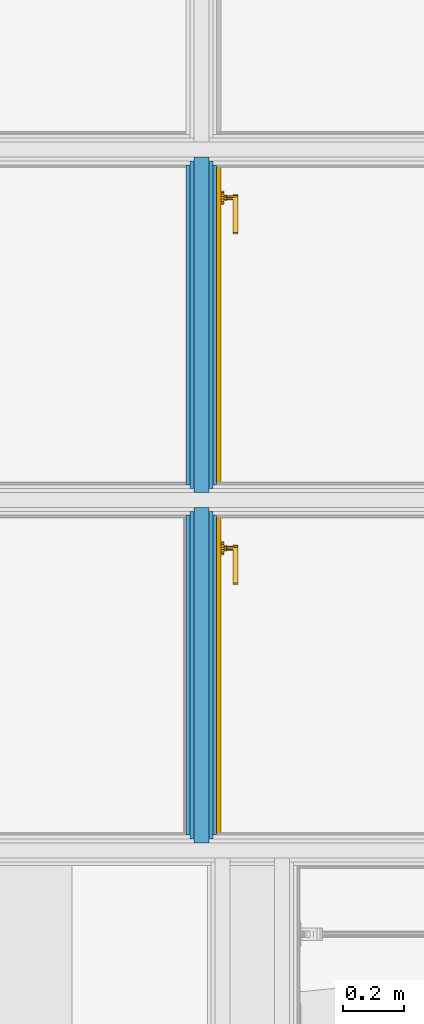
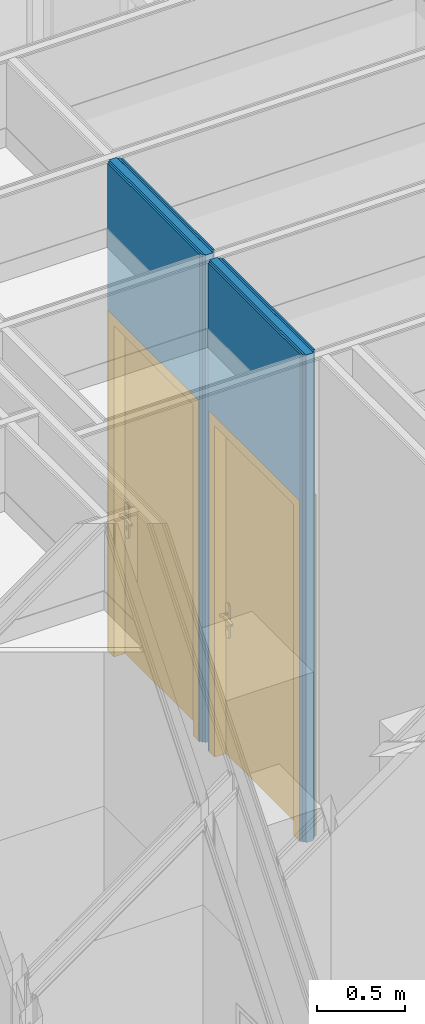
# One storey, part 15 of 788: 10 building element parts, 2 doors, 2 openings, 2 elements without a shape of their own.
"""IFC2X3 building model written with IfcOpenShell, lengths in millimetres."""

from ifc_helpers import new_model, entity, si_unit, converted_unit, derived_unit, money_unit, direction, frame, origin_with_axes, place, context, subcontext, project, spatial, faceted_brep, source, transform, mapped, material, type_object, type_shapes, element, fill, aggregate, save


model = new_model("IFC2X3")

# Units and contexts
model_context = context("Model", 3, precision=0.01, world=origin_with_axes(), true_north=direction((0.0, 1.0)))
plan_context = context("Plan", 3, precision=0.01, world=origin_with_axes(), true_north=direction((0.0, 1.0)))
body_context = subcontext(model_context, "Body", "Model", "MODEL_VIEW")
ifc_project = project(units=[si_unit("LENGTHUNIT", "METRE", prefix="MILLI"), si_unit("AREAUNIT", "SQUARE_METRE"), si_unit("VOLUMEUNIT", "CUBIC_METRE"), converted_unit("PLANEANGLEUNIT", "DEGREE", entity("IfcPlaneAngleMeasure", 0.0174532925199), si_unit("PLANEANGLEUNIT", "RADIAN"), dimensions=[0, 0, 0, 0, 0, 0, 0]), money_unit("EUR"), converted_unit("TIMEUNIT", "Year", entity("IfcTimeMeasure", 31556926.0), si_unit("TIMEUNIT", "SECOND"), dimensions=[0, 0, 1, 0, 0, 0, 0]), si_unit("MASSUNIT", "GRAM", prefix="KILO"), si_unit("THERMODYNAMICTEMPERATUREUNIT", "DEGREE_CELSIUS"), si_unit("LUMINOUSINTENSITYUNIT", "LUMEN"), si_unit("ENERGYUNIT", "JOULE", prefix="MEGA"), derived_unit("THERMALCONDUCTANCEUNIT", [(si_unit("POWERUNIT", "WATT"), 1), (si_unit("LENGTHUNIT", "METRE"), -1), (si_unit("THERMODYNAMICTEMPERATUREUNIT", "KELVIN"), -1)]), derived_unit("SPECIFICHEATCAPACITYUNIT", [(si_unit("ENERGYUNIT", "JOULE"), 1), (si_unit("MASSUNIT", "GRAM", prefix="KILO"), -1), (si_unit("THERMODYNAMICTEMPERATUREUNIT", "KELVIN"), -1)]), derived_unit("MASSDENSITYUNIT", [(si_unit("MASSUNIT", "GRAM", prefix="KILO"), 1), (si_unit("VOLUMEUNIT", "CUBIC_METRE"), -1)])], contexts=[model_context, plan_context])

# Site, building, storey
site_placement = place(None, origin_with_axes())
site = spatial("IfcSite", under=ifc_project, at=site_placement, Name="Site", CompositionType="ELEMENT")
building_placement = place(site_placement, origin_with_axes())
building = spatial("IfcBuilding", under=site, at=building_placement, Name="Naam gebouw", CompositionType="ELEMENT")
storey_placement = place(building_placement, origin_with_axes())
storey = spatial("IfcBuildingStorey", under=building, at=storey_placement, Name="Begane grond", CompositionType="ELEMENT", Elevation=0.0)

# Door
door_style = type_object("IfcDoorStyle", Name="D1 25", ConstructionType="NOTDEFINED", OperationType="SINGLE_SWING_RIGHT", ParameterTakesPrecedence=False, Sizeable=False)
shared_shape = source(origin_with_axes(), body_context, "Body", "Brep", [
    faceted_brep([(-450.0, -40.0, 0.0), (-450.0, -40.0, 2310.0), (-450.0, -114.0, 2310.0), (-450.0, -114.0, 0.0), (-467.0, -40.0, 2310.0), (-467.0, -40.0, 0.0), (-467.0, 0.0, 2310.0), (-517.0, 0.0, 2310.0), (-517.0, -114.0, 2310.0), (-517.0, -114.0, 0.0), (-517.0, 0.0, 0.0), (-467.0, 0.0, 0.0)], [[[0, 1, 2, 3]], [[4, 1, 0, 5]], [[4, 6, 7, 8, 2, 1]], [[3, 2, 8, 9]], [[5, 0, 3, 9, 10, 11]], [[6, 4, 5, 11]], [[6, 11, 10, 7]], [[10, 9, 8, 7]]]),
    faceted_brep([(467.0, -40.0, 2310.0), (450.0, -40.0, 2310.0), (450.0, -114.0, 2310.0), (517.0, -114.0, 2310.0), (517.0, 0.0, 2310.0), (467.0, 0.0, 2310.0), (467.0, -40.0, 0.0), (450.0, -40.0, 0.0), (450.0, -114.0, 0.0), (517.0, -114.0, 0.0), (517.0, 0.0, 0.0), (467.0, 0.0, 0.0)], [[[0, 1, 2, 3, 4, 5]], [[1, 0, 6, 7]], [[1, 7, 8, 2]], [[3, 2, 8, 9]], [[4, 3, 9, 10]], [[11, 5, 4, 10]], [[0, 5, 11, 6]], [[6, 11, 10, 9, 8, 7]]]),
    faceted_brep([(-467.0, 0.0, 2327.0), (-467.0, 0.0, 2310.0), (-517.0, 0.0, 2310.0), (-517.0, 0.0, 2377.0), (517.0, 0.0, 2377.0), (517.0, 0.0, 2310.0), (467.0, 0.0, 2310.0), (467.0, 0.0, 2327.0), (-467.0, -40.0, 2327.0), (-467.0, -40.0, 2310.0), (-450.0, -40.0, 2310.0), (-450.0, -114.0, 2310.0), (-517.0, -114.0, 2310.0), (-517.0, -114.0, 2377.0), (517.0, -114.0, 2377.0), (517.0, -114.0, 2310.0), (467.0, -40.0, 2310.0), (450.0, -114.0, 2310.0), (450.0, -40.0, 2310.0), (467.0, -40.0, 2327.0)], [[[0, 1, 2, 3, 4, 5, 6, 7]], [[1, 0, 8, 9]], [[9, 10, 11, 12, 2, 1]], [[2, 12, 13, 3]], [[3, 13, 14, 4]], [[4, 14, 15, 5]], [[16, 6, 5, 15, 17, 18]], [[7, 6, 16, 19]], [[0, 7, 19, 8]], [[16, 18, 10, 9, 8, 19]], [[10, 18, 17, 11]], [[17, 15, 14, 13, 12, 11]]]),
    faceted_brep([(-421.702282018, -80.0, 1006.47213595), (-417.0, -80.0, 1008.0), (-417.0, -60.0, 1008.0), (-421.702282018, -60.0, 1006.47213595), (-424.60845213, -80.0, 1002.47213595), (-424.60845213, -80.0, 997.527864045), (-421.702282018, -80.0, 993.527864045), (-417.0, -80.0, 992.0), (-412.297717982, -80.0, 993.527864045), (-409.39154787, -80.0, 997.527864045), (-409.39154787, -80.0, 1002.47213595), (-412.297717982, -80.0, 1006.47213595), (-412.297717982, -60.0, 1006.47213595), (-417.0, -58.0, 1010.0), (-422.877852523, -58.0, 1008.09016994), (-424.60845213, -60.0, 1002.47213595), (-424.60845213, -60.0, 997.527864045), (-421.702282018, -60.0, 993.527864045), (-417.0, -60.0, 992.0), (-412.297717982, -60.0, 993.527864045), (-409.39154787, -60.0, 997.527864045), (-409.39154787, -60.0, 1002.47213595), (-411.122147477, -58.0, 1008.09016994), (-417.0, -50.0, 1010.0), (-422.877852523, -50.0, 1008.09016994), (-426.510565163, -58.0, 1003.09016994), (-426.510565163, -58.0, 996.909830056), (-422.877852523, -58.0, 991.909830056), (-417.0, -58.0, 990.0), (-411.122147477, -58.0, 991.909830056), (-407.489434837, -58.0, 996.909830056), (-407.489434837, -58.0, 1003.09016994), (-411.122147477, -50.0, 1008.09016994), (-407.489434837, -50.0, 1003.09016994), (-407.489434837, -50.0, 996.909830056), (-411.122147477, -50.0, 991.909830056), (-417.0, -50.0, 990.0), (-422.877852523, -50.0, 991.909830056), (-426.510565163, -50.0, 996.909830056), (-426.510565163, -50.0, 1003.09016994)], [[[0, 1, 2, 3]], [[1, 0, 4, 5, 6, 7, 8, 9, 10, 11]], [[1, 11, 12, 2]], [[3, 2, 13, 14]], [[4, 0, 3, 15]], [[5, 4, 15, 16]], [[6, 5, 16, 17]], [[7, 6, 17, 18]], [[8, 7, 18, 19]], [[9, 8, 19, 20]], [[10, 9, 20, 21]], [[11, 10, 21, 12]], [[2, 12, 22, 13]], [[14, 13, 23, 24]], [[15, 3, 14, 25]], [[16, 15, 25, 26]], [[17, 16, 26, 27]], [[18, 17, 27, 28]], [[19, 18, 28, 29]], [[20, 19, 29, 30]], [[21, 20, 30, 31]], [[12, 21, 31, 22]], [[13, 22, 32, 23]], [[23, 32, 33, 34, 35, 36, 37, 38, 39, 24]], [[25, 14, 24, 39]], [[26, 25, 39, 38]], [[27, 26, 38, 37]], [[28, 27, 37, 36]], [[29, 28, 36, 35]], [[30, 29, 35, 34]], [[31, 30, 34, 33]], [[22, 31, 33, 32]]]),
    faceted_brep([(-404.811616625, -50.0, 1067.59695641), (-412.556444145, -50.0, 1071.95567195), (-421.443555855, -50.0, 1071.95567195), (-429.188383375, -50.0, 1067.59695641), (-433.8, -50.0, 1060.0), (-439.5, -50.0, 1060.0), (-439.5, -50.0, 840.0), (-433.8, -50.0, 840.0), (-429.188383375, -50.0, 832.403043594), (-421.443555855, -50.0, 828.044328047), (-412.556444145, -50.0, 828.044328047), (-404.811616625, -50.0, 832.403043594), (-400.2, -50.0, 840.0), (-394.5, -50.0, 840.0), (-394.5, -50.0, 1060.0), (-400.2, -50.0, 1060.0), (-417.0, -50.0, 917.425445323), (-411.624817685, -50.0, 915.143815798), (-409.532169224, -50.0, 909.692280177), (-412.0, -50.0, 904.4), (-412.0, -50.0, 887.5), (-413.464466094, -50.0, 883.964466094), (-417.0, -50.0, 882.5), (-420.535533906, -50.0, 883.964466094), (-422.0, -50.0, 887.5), (-422.0, -50.0, 904.4), (-424.467830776, -50.0, 909.692280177), (-422.375182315, -50.0, 915.143815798), (-404.811616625, -40.0, 1067.59695641), (-412.556444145, -40.0, 1071.95567195), (-421.443555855, -40.0, 1071.95567195), (-429.188383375, -40.0, 1067.59695641), (-433.8, -40.0, 1060.0), (-439.5, -40.0, 1060.0), (-439.5, -40.0, 840.0), (-433.8, -40.0, 840.0), (-429.188383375, -40.0, 832.403043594), (-421.443555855, -40.0, 828.044328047), (-412.556444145, -40.0, 828.044328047), (-404.811616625, -40.0, 832.403043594), (-400.2, -40.0, 840.0), (-394.5, -40.0, 840.0), (-394.5, -40.0, 1060.0), (-400.2, -40.0, 1060.0), (-417.0, -40.0, 917.425445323), (-411.624817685, -40.0, 915.143815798), (-409.532169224, -40.0, 909.692280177), (-412.0, -40.0, 904.4), (-412.0, -40.0, 887.5), (-413.464466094, -40.0, 883.964466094), (-417.0, -40.0, 882.5), (-420.535533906, -40.0, 883.964466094), (-422.0, -40.0, 887.5), (-422.0, -40.0, 904.4), (-424.467830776, -40.0, 909.692280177), (-422.375182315, -40.0, 915.143815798)], [[[0, 1, 2, 3, 4, 5, 6, 7, 8, 9, 10, 11, 12, 13, 14, 15], [16, 17, 18, 19, 20, 21, 22, 23, 24, 25, 26, 27]], [[1, 0, 28, 29]], [[2, 1, 29, 30]], [[3, 2, 30, 31]], [[4, 3, 31, 32]], [[5, 4, 32, 33]], [[6, 5, 33, 34]], [[7, 6, 34, 35]], [[8, 7, 35, 36]], [[9, 8, 36, 37]], [[10, 9, 37, 38]], [[11, 10, 38, 39]], [[12, 11, 39, 40]], [[13, 12, 40, 41]], [[14, 13, 41, 42]], [[15, 14, 42, 43]], [[0, 15, 43, 28]], [[17, 16, 44, 45]], [[18, 17, 45, 46]], [[19, 18, 46, 47]], [[19, 47, 48, 20]], [[20, 48, 49, 21]], [[21, 49, 50, 22]], [[22, 50, 51, 23]], [[23, 51, 52, 24]], [[53, 25, 24, 52]], [[26, 25, 53, 54]], [[27, 26, 54, 55]], [[16, 27, 55, 44]], [[40, 39, 38, 37, 36, 35, 34, 33, 32, 31, 30, 29, 28, 43, 42, 41], [54, 53, 52, 51, 50, 49, 48, 47, 46, 45, 44, 55]]]),
    faceted_brep([(-302.747, -80.0, 1007.158), (-302.747, -95.0, 1007.158), (-302.745508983, -95.0, 1007.19388416), (-302.745508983, -80.0, 1007.19388416), (-329.774630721, -80.0, 1014.32652034), (-329.774630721, -95.0, 1014.32652034), (-357.602743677, -95.0, 1017.06086405), (-385.508740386, -95.0, 1015.29002982), (-412.768, -95.0, 1009.06), (-419.170575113, -95.0, 1009.76125134), (-424.672633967, -95.0, 1006.41280843), (-426.991512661, -95.0, 1000.40385485), (-425.165167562, -95.0, 994.227352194), (-419.951302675, -95.0, 990.445773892), (-413.513017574, -95.0, 990.628000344), (-408.521392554, -95.0, 994.698430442), (-408.542, -95.0, 994.666), (-383.253286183, -95.0, 1000.19878945), (-357.410818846, -95.0, 1001.71460194), (-331.648684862, -95.0, 999.176244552), (-306.599, -95.0, 992.646), (-301.055815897, -95.0, 993.568490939), (-297.69427449, -95.0, 998.071591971), (-298.385844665, -95.0, 1003.64829442), (-298.385844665, -80.0, 1003.64829442), (-297.69427449, -80.0, 998.071591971), (-301.055815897, -80.0, 993.568490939), (-306.599, -80.0, 992.646), (-331.648684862, -80.0, 999.176244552), (-357.410818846, -80.0, 1001.71460194), (-383.253286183, -80.0, 1000.19878945), (-408.542, -80.0, 994.666), (-408.521392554, -80.0, 994.698430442), (-413.513017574, -80.0, 990.628000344), (-419.951302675, -80.0, 990.445773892), (-425.165167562, -80.0, 994.227352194), (-426.991512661, -80.0, 1000.40385485), (-424.672633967, -80.0, 1006.41280843), (-419.170575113, -80.0, 1009.76125134), (-412.768, -80.0, 1009.06), (-385.508740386, -80.0, 1015.29002982), (-357.602743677, -80.0, 1017.06086405)], [[[0, 1, 2, 3]], [[4, 5, 1, 0]], [[1, 5, 6, 7, 8, 9, 10, 11, 12, 13, 14, 15, 16, 17, 18, 19, 20, 21, 22, 23, 2]], [[3, 2, 23, 24]], [[0, 3, 24, 25, 26, 27, 28, 29, 30, 31, 32, 33, 34, 35, 36, 37, 38, 39, 40, 41, 4]], [[41, 6, 5, 4]], [[40, 7, 6, 41]], [[39, 8, 7, 40]], [[38, 9, 8, 39]], [[37, 10, 9, 38]], [[36, 11, 10, 37]], [[35, 12, 11, 36]], [[34, 13, 12, 35]], [[33, 14, 13, 34]], [[32, 15, 14, 33]], [[31, 16, 15, 32]], [[30, 17, 16, 31]], [[29, 18, 17, 30]], [[28, 19, 18, 29]], [[27, 20, 19, 28]], [[26, 21, 20, 27]], [[25, 22, 21, 26]], [[24, 23, 22, 25]]]),
    faceted_brep([(-421.702282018, 40.0, 1006.47213595), (-421.702282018, 20.0, 1006.47213595), (-417.0, 20.0, 1008.0), (-417.0, 40.0, 1008.0), (-424.60845213, 40.0, 1002.47213595), (-424.60845213, 20.0, 1002.47213595), (-422.877852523, 18.0, 1008.09016994), (-417.0, 18.0, 1010.0), (-412.297717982, 20.0, 1006.47213595), (-412.297717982, 40.0, 1006.47213595), (-409.39154787, 40.0, 1002.47213595), (-409.39154787, 40.0, 997.527864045), (-412.297717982, 40.0, 993.527864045), (-417.0, 40.0, 992.0), (-421.702282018, 40.0, 993.527864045), (-424.60845213, 40.0, 997.527864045), (-424.60845213, 20.0, 997.527864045), (-426.510565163, 18.0, 1003.09016994), (-422.877852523, 10.0, 1008.09016994), (-417.0, 10.0, 1010.0), (-411.122147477, 18.0, 1008.09016994), (-409.39154787, 20.0, 1002.47213595), (-409.39154787, 20.0, 997.527864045), (-412.297717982, 20.0, 993.527864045), (-417.0, 20.0, 992.0), (-421.702282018, 20.0, 993.527864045), (-426.510565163, 18.0, 996.909830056), (-426.510565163, 10.0, 1003.09016994), (-426.510565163, 10.0, 996.909830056), (-422.877852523, 10.0, 991.909830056), (-417.0, 10.0, 990.0), (-411.122147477, 10.0, 991.909830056), (-407.489434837, 10.0, 996.909830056), (-407.489434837, 10.0, 1003.09016994), (-411.122147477, 10.0, 1008.09016994), (-407.489434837, 18.0, 1003.09016994), (-407.489434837, 18.0, 996.909830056), (-411.122147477, 18.0, 991.909830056), (-417.0, 18.0, 990.0), (-422.877852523, 18.0, 991.909830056)], [[[0, 1, 2, 3]], [[4, 5, 1, 0]], [[1, 6, 7, 2]], [[3, 2, 8, 9]], [[3, 9, 10, 11, 12, 13, 14, 15, 4, 0]], [[15, 16, 5, 4]], [[5, 17, 6, 1]], [[6, 18, 19, 7]], [[2, 7, 20, 8]], [[9, 8, 21, 10]], [[10, 21, 22, 11]], [[11, 22, 23, 12]], [[12, 23, 24, 13]], [[13, 24, 25, 14]], [[14, 25, 16, 15]], [[16, 26, 17, 5]], [[17, 27, 18, 6]], [[19, 18, 27, 28, 29, 30, 31, 32, 33, 34]], [[7, 19, 34, 20]], [[8, 20, 35, 21]], [[21, 35, 36, 22]], [[22, 36, 37, 23]], [[23, 37, 38, 24]], [[24, 38, 39, 25]], [[25, 39, 26, 16]], [[26, 28, 27, 17]], [[39, 29, 28, 26]], [[38, 30, 29, 39]], [[37, 31, 30, 38]], [[36, 32, 31, 37]], [[35, 33, 32, 36]], [[20, 34, 33, 35]]]),
    faceted_brep([(-404.811616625, 0.0, 1067.59695641), (-412.556444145, 0.0, 1071.95567195), (-421.443555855, 0.0, 1071.95567195), (-429.188383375, 0.0, 1067.59695641), (-433.8, 0.0, 1060.0), (-439.5, 0.0, 1060.0), (-439.5, 0.0, 840.0), (-433.8, 0.0, 840.0), (-429.188383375, 0.0, 832.403043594), (-421.443555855, 0.0, 828.044328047), (-412.556444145, 0.0, 828.044328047), (-404.811616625, 0.0, 832.403043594), (-400.2, 0.0, 840.0), (-394.5, 0.0, 840.0), (-394.5, 0.0, 1060.0), (-400.2, 0.0, 1060.0), (-417.0, 0.0, 917.425445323), (-411.624817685, 0.0, 915.143815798), (-409.532169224, 0.0, 909.692280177), (-412.0, 0.0, 904.4), (-412.0, 0.0, 887.5), (-413.464466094, 0.0, 883.964466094), (-417.0, 0.0, 882.5), (-420.535533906, 0.0, 883.964466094), (-422.0, 0.0, 887.5), (-422.0, 0.0, 904.4), (-424.467830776, 0.0, 909.692280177), (-422.375182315, 0.0, 915.143815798), (-412.556444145, 10.0, 1071.95567195), (-404.811616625, 10.0, 1067.59695641), (-421.443555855, 10.0, 1071.95567195), (-429.188383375, 10.0, 1067.59695641), (-433.8, 10.0, 1060.0), (-439.5, 10.0, 1060.0), (-439.5, 10.0, 840.0), (-433.8, 10.0, 840.0), (-429.188383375, 10.0, 832.403043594), (-421.443555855, 10.0, 828.044328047), (-412.556444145, 10.0, 828.044328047), (-404.811616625, 10.0, 832.403043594), (-400.2, 10.0, 840.0), (-394.5, 10.0, 840.0), (-394.5, 10.0, 1060.0), (-400.2, 10.0, 1060.0), (-417.0, 10.0, 917.425445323), (-411.624817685, 10.0, 915.143815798), (-409.532169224, 10.0, 909.692280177), (-412.0, 10.0, 904.4), (-412.0, 10.0, 887.5), (-413.464466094, 10.0, 883.964466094), (-417.0, 10.0, 882.5), (-420.535533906, 10.0, 883.964466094), (-422.0, 10.0, 887.5), (-422.0, 10.0, 904.4), (-424.467830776, 10.0, 909.692280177), (-422.375182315, 10.0, 915.143815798)], [[[0, 1, 2, 3, 4, 5, 6, 7, 8, 9, 10, 11, 12, 13, 14, 15], [16, 17, 18, 19, 20, 21, 22, 23, 24, 25, 26, 27]], [[28, 1, 0, 29]], [[30, 2, 1, 28]], [[31, 3, 2, 30]], [[32, 4, 3, 31]], [[33, 5, 4, 32]], [[34, 6, 5, 33]], [[35, 7, 6, 34]], [[36, 8, 7, 35]], [[37, 9, 8, 36]], [[38, 10, 9, 37]], [[39, 11, 10, 38]], [[40, 12, 11, 39]], [[41, 13, 12, 40]], [[42, 14, 13, 41]], [[43, 15, 14, 42]], [[29, 0, 15, 43]], [[17, 16, 44, 45]], [[18, 17, 45, 46]], [[19, 18, 46, 47]], [[19, 47, 48, 20]], [[20, 48, 49, 21]], [[21, 49, 50, 22]], [[22, 50, 51, 23]], [[23, 51, 52, 24]], [[53, 25, 24, 52]], [[26, 25, 53, 54]], [[27, 26, 54, 55]], [[16, 27, 55, 44]], [[40, 39, 38, 37, 36, 35, 34, 33, 32, 31, 30, 28, 29, 43, 42, 41], [54, 53, 52, 51, 50, 49, 48, 47, 46, 45, 44, 55]]]),
    faceted_brep([(-302.747, 40.0, 1007.158), (-302.745508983, 40.0, 1007.19388416), (-302.745508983, 55.0, 1007.19388416), (-302.747, 55.0, 1007.158), (-329.774630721, 40.0, 1014.32652034), (-357.602743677, 40.0, 1017.06086405), (-385.508740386, 40.0, 1015.29002982), (-412.768, 40.0, 1009.06), (-419.170575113, 40.0, 1009.76125134), (-424.672633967, 40.0, 1006.41280843), (-426.991512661, 40.0, 1000.40385485), (-425.165167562, 40.0, 994.227352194), (-419.951302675, 40.0, 990.445773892), (-413.513017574, 40.0, 990.628000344), (-408.521392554, 40.0, 994.698430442), (-408.542, 40.0, 994.666), (-383.253286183, 40.0, 1000.19878945), (-357.410818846, 40.0, 1001.71460194), (-331.648684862, 40.0, 999.176244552), (-306.599, 40.0, 992.646), (-301.055815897, 40.0, 993.568490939), (-297.69427449, 40.0, 998.071591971), (-298.385844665, 40.0, 1003.64829442), (-298.385844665, 55.0, 1003.64829442), (-297.69427449, 55.0, 998.071591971), (-301.055815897, 55.0, 993.568490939), (-306.599, 55.0, 992.646), (-331.648684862, 55.0, 999.176244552), (-357.410818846, 55.0, 1001.71460194), (-383.253286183, 55.0, 1000.19878945), (-408.542, 55.0, 994.666), (-408.521392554, 55.0, 994.698430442), (-413.513017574, 55.0, 990.628000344), (-419.951302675, 55.0, 990.445773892), (-425.165167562, 55.0, 994.227352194), (-426.991512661, 55.0, 1000.40385485), (-424.672633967, 55.0, 1006.41280843), (-419.170575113, 55.0, 1009.76125134), (-412.768, 55.0, 1009.06), (-385.508740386, 55.0, 1015.29002982), (-357.602743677, 55.0, 1017.06086405), (-329.774630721, 55.0, 1014.32652034)], [[[0, 1, 2, 3]], [[0, 4, 5, 6, 7, 8, 9, 10, 11, 12, 13, 14, 15, 16, 17, 18, 19, 20, 21, 22, 1]], [[1, 22, 23, 2]], [[3, 2, 23, 24, 25, 26, 27, 28, 29, 30, 31, 32, 33, 34, 35, 36, 37, 38, 39, 40, 41]], [[4, 0, 3, 41]], [[5, 4, 41, 40]], [[6, 5, 40, 39]], [[7, 6, 39, 38]], [[8, 7, 38, 37]], [[9, 8, 37, 36]], [[10, 9, 36, 35]], [[11, 10, 35, 34]], [[12, 11, 34, 33]], [[13, 12, 33, 32]], [[14, 13, 32, 31]], [[15, 14, 31, 30]], [[16, 15, 30, 29]], [[17, 16, 29, 28]], [[18, 17, 28, 27]], [[19, 18, 27, 26]], [[20, 19, 26, 25]], [[21, 20, 25, 24]], [[22, 21, 24, 23]]]),
    faceted_brep([(467.0, 0.0, 0.0), (467.0, -40.0, 0.0), (-467.0, -40.0, 0.0), (-467.0, 0.0, 0.0), (467.0, 0.0, 2327.0), (467.0, -40.0, 2327.0), (-467.0, -40.0, 2327.0), (-467.0, 0.0, 2327.0)], [[[0, 1, 2, 3]], [[4, 5, 1, 0]], [[1, 5, 6, 2]], [[3, 2, 6, 7]], [[0, 3, 7, 4]], [[7, 6, 5, 4]]]),
])
type_shapes(door_style, [shared_shape])
wall_1_placement = place(storey_placement, frame((25965.9940854, 22854.989991, 0.0), z_axis=(0.0, 0.0, 1.0), x_axis=(0.0, 1.0, 0.0)))
opening_1_placement = place(wall_1_placement, frame((625.0, 0.0, 0.0), z_axis=(0.0, 0.0, 1.0), x_axis=(1.0, 0.0, 0.0)))
door_1_placement = place(opening_1_placement, frame((517.0, 0.0, 0.0), z_axis=(0.0, 0.0, 1.0), x_axis=(-1.0, 0.0, 0.0)))
door_1 = element("IfcDoor", 1, at=door_1_placement, inside=storey, type_object=door_style, Name="b1.01", ObjectType="DOOR", OverallHeight=2377.0, OverallWidth=1034.0, context=body_context, shape_type="MappedRepresentation", body=[
    mapped(shared_shape, transform((517.0, 114.0, 0.0))),
])

wall_2_placement = place(storey_placement, frame((25965.9940854, 21704.989991, 0.0), z_axis=(0.0, 0.0, 1.0), x_axis=(0.0, 1.0, 0.0)))
opening_2_placement = place(wall_2_placement, frame((625.0, 0.0, 0.0), z_axis=(0.0, 0.0, 1.0), x_axis=(1.0, 0.0, 0.0)))
door_2_placement = place(opening_2_placement, frame((517.0, 0.0, 0.0), z_axis=(0.0, 0.0, 1.0), x_axis=(-1.0, 0.0, 0.0)))
door_2 = element("IfcDoor", 2, at=door_2_placement, inside=storey, type_object=door_style, Name="b1.01", ObjectType="DOOR", OverallHeight=2377.0, OverallWidth=1034.0, context=body_context, shape_type="MappedRepresentation", body=[
    mapped(shared_shape, transform((517.0, 114.0, 0.0))),
])

# Wall, opening
wall_type = type_object("IfcWallType", Name="22 Metalstud 100mm 100", PredefinedType="ELEMENTEDWALL")
wall_1 = element("IfcWall", 3, at=wall_1_placement, inside=storey, type_object=wall_type, Name="Binnenwand")
opening_1 = element("IfcOpeningElement", 4, at=opening_1_placement, cuts=wall_1, Name="b1.01", context=body_context, shape_type="Brep", body=[
    faceted_brep([(-517.0, -100.0, 0.0), (-517.0, -100.0, 2377.0), (-517.0, 200.0, 2377.0), (-517.0, 200.0, 0.0), (517.0, -100.0, 0.0), (517.0, -100.0, 2377.0), (517.0, 200.0, 2377.0), (517.0, 200.0, 0.0)], [[[0, 1, 2, 3]], [[0, 4, 5, 1]], [[1, 5, 6, 2]], [[3, 2, 6, 7]], [[4, 0, 3, 7]], [[5, 4, 7, 6]]]),
])

fill(opening_1, door_1)

# Building element part
ifc_material_1 = material(Name="Gipsplaat")
building_element_part_1_placement = place(wall_1_placement, origin_with_axes())
building_element_part_1 = element("IfcBuildingElementPart", 5, at=building_element_part_1_placement, material=ifc_material_1, Name="Gipsplaat", context=body_context, shape_type="Brep", body=[
    faceted_brep([(108.0, -12.5, 0.0), (108.0, -12.5, 2377.0), (1142.0, -12.5, 2377.0), (1142.0, -12.5, 0.0), (1150.0, -12.5, 0.0), (1150.0, -12.5, 3400.0), (100.0, -12.5, 3400.0), (100.0, -12.5, 0.0), (108.0, 0.0, 0.0), (108.0, 0.0, 2377.0), (1142.0, 0.0, 2377.0), (1142.0, 0.0, 0.0), (1150.0, 0.0, 0.0), (1150.0, 0.0, 3400.0), (100.0, 0.0, 3400.0), (100.0, 0.0, 0.0)], [[[0, 1, 2, 3, 4, 5, 6, 7]], [[1, 0, 8, 9]], [[2, 1, 9, 10]], [[3, 2, 10, 11]], [[3, 11, 12, 4]], [[4, 12, 13, 5]], [[6, 5, 13, 14]], [[6, 14, 15, 7]], [[8, 0, 7, 15]], [[9, 8, 15, 14, 13, 12, 11, 10]]]),
])

building_element_part_2_placement = place(wall_1_placement, origin_with_axes())
building_element_part_2 = element("IfcBuildingElementPart", 6, at=building_element_part_2_placement, material=ifc_material_1, Name="Gipsplaat", context=body_context, shape_type="Brep", body=[
    faceted_brep([(108.0, -25.0, 0.0), (108.0, -25.0, 2377.0), (1142.0, -25.0, 2377.0), (1142.0, -25.0, 0.0), (1162.5, -25.0, 0.0), (1162.5, -25.0, 3400.0), (87.5, -25.0, 3400.0), (87.5, -25.0, 0.0), (108.0, -12.5, 0.0), (108.0, -12.5, 2377.0), (1142.0, -12.5, 2377.0), (1142.0, -12.5, 0.0), (1162.5, -12.5, 0.0), (1162.5, -12.5, 3400.0), (87.5, -12.5, 3400.0), (87.5, -12.5, 0.0)], [[[0, 1, 2, 3, 4, 5, 6, 7]], [[1, 0, 8, 9]], [[2, 1, 9, 10]], [[3, 2, 10, 11]], [[3, 11, 12, 4]], [[4, 12, 13, 5]], [[6, 5, 13, 14]], [[6, 14, 15, 7]], [[8, 0, 7, 15]], [[9, 8, 15, 14, 13, 12, 11, 10]]]),
])

ifc_material_2 = material(Name="Isolatie - Steenwol LSW")
building_element_part_3_placement = place(wall_1_placement, origin_with_axes())
building_element_part_3 = element("IfcBuildingElementPart", 7, at=building_element_part_3_placement, material=ifc_material_2, Name="Isolatie - Steenwol LSW", context=body_context, shape_type="Brep", body=[
    faceted_brep([(108.0, -75.0, 0.0), (108.0, -75.0, 2377.0), (1142.0, -75.0, 2377.0), (1142.0, -75.0, 0.0), (1175.0, -75.0, 0.0), (1175.0, -75.0, 3400.0), (75.0, -75.0, 3400.0), (75.0, -75.0, 0.0), (108.0, -25.0, 0.0), (108.0, -25.0, 2377.0), (1142.0, -25.0, 2377.0), (1142.0, -25.0, 0.0), (1175.0, -25.0, 0.0), (1175.0, -25.0, 3400.0), (75.0, -25.0, 3400.0), (75.0, -25.0, 0.0)], [[[0, 1, 2, 3, 4, 5, 6, 7]], [[1, 0, 8, 9]], [[2, 1, 9, 10]], [[3, 2, 10, 11]], [[3, 11, 12, 4]], [[4, 12, 13, 5]], [[6, 5, 13, 14]], [[6, 14, 15, 7]], [[8, 0, 7, 15]], [[9, 8, 15, 14, 13, 12, 11, 10]]]),
])

building_element_part_4_placement = place(wall_1_placement, origin_with_axes())
building_element_part_4 = element("IfcBuildingElementPart", 8, at=building_element_part_4_placement, material=ifc_material_1, Name="Gipsplaat", context=body_context, shape_type="Brep", body=[
    faceted_brep([(108.0, -87.5, 0.0), (108.0, -87.5, 2377.0), (1142.0, -87.5, 2377.0), (1142.0, -87.5, 0.0), (1162.5, -87.5, 0.0), (1162.5, -87.5, 3400.0), (87.5, -87.5, 3400.0), (87.5, -87.5, 0.0), (108.0, -75.0, 0.0), (108.0, -75.0, 2377.0), (1142.0, -75.0, 2377.0), (1142.0, -75.0, 0.0), (1162.5, -75.0, 0.0), (1162.5, -75.0, 3400.0), (87.5, -75.0, 3400.0), (87.5, -75.0, 0.0)], [[[0, 1, 2, 3, 4, 5, 6, 7]], [[1, 0, 8, 9]], [[2, 1, 9, 10]], [[3, 2, 10, 11]], [[3, 11, 12, 4]], [[4, 12, 13, 5]], [[6, 5, 13, 14]], [[6, 14, 15, 7]], [[8, 0, 7, 15]], [[9, 8, 15, 14, 13, 12, 11, 10]]]),
])

building_element_part_5_placement = place(wall_1_placement, origin_with_axes())
building_element_part_5 = element("IfcBuildingElementPart", 9, at=building_element_part_5_placement, material=ifc_material_1, Name="Gipsplaat", context=body_context, shape_type="Brep", body=[
    faceted_brep([(108.0, -100.0, 0.0), (108.0, -100.0, 2377.0), (1142.0, -100.0, 2377.0), (1142.0, -100.0, 0.0), (1150.0, -100.0, 0.0), (1150.0, -100.0, 3400.0), (100.0, -100.0, 3400.0), (100.0, -100.0, 0.0), (108.0, -87.5, 0.0), (108.0, -87.5, 2377.0), (1142.0, -87.5, 2377.0), (1142.0, -87.5, 0.0), (1150.0, -87.5, 0.0), (1150.0, -87.5, 3400.0), (100.0, -87.5, 3400.0), (100.0, -87.5, 0.0)], [[[0, 1, 2, 3, 4, 5, 6, 7]], [[1, 0, 8, 9]], [[2, 1, 9, 10]], [[3, 2, 10, 11]], [[3, 11, 12, 4]], [[4, 12, 13, 5]], [[6, 5, 13, 14]], [[6, 14, 15, 7]], [[8, 0, 7, 15]], [[9, 8, 15, 14, 13, 12, 11, 10]]]),
])

aggregate(wall_1, [building_element_part_1, building_element_part_2, building_element_part_3, building_element_part_4, building_element_part_5])

# Wall, opening
wall_2 = element("IfcWall", 10, at=wall_2_placement, inside=storey, type_object=wall_type, Name="Binnenwand")
opening_2 = element("IfcOpeningElement", 11, at=opening_2_placement, cuts=wall_2, Name="b1.01", context=body_context, shape_type="Brep", body=[
    faceted_brep([(-517.0, -100.0, 0.0), (-517.0, -100.0, 2377.0), (-517.0, 200.0, 2377.0), (-517.0, 200.0, 0.0), (517.0, -100.0, 0.0), (517.0, -100.0, 2377.0), (517.0, 200.0, 2377.0), (517.0, 200.0, 0.0)], [[[0, 1, 2, 3]], [[0, 4, 5, 1]], [[1, 5, 6, 2]], [[3, 2, 6, 7]], [[4, 0, 3, 7]], [[5, 4, 7, 6]]]),
])

fill(opening_2, door_2)

# Building element part
building_element_part_6_placement = place(wall_2_placement, origin_with_axes())
building_element_part_6 = element("IfcBuildingElementPart", 12, at=building_element_part_6_placement, material=ifc_material_1, Name="Gipsplaat", context=body_context, shape_type="Brep", body=[
    faceted_brep([(108.0, -12.5, 0.0), (108.0, -12.5, 2377.0), (1142.0, -12.5, 2377.0), (1142.0, -12.5, 0.0), (1150.0, -12.5, 0.0), (1150.0, -12.5, 3400.0), (100.0, -12.5, 3400.0), (100.0, -12.5, 0.0), (108.0, 0.0, 0.0), (108.0, 0.0, 2377.0), (1142.0, 0.0, 2377.0), (1142.0, 0.0, 0.0), (1150.0, 0.0, 0.0), (1150.0, 0.0, 3400.0), (100.0, 0.0, 3400.0), (100.0, 0.0, 0.0)], [[[0, 1, 2, 3, 4, 5, 6, 7]], [[1, 0, 8, 9]], [[2, 1, 9, 10]], [[3, 2, 10, 11]], [[3, 11, 12, 4]], [[13, 5, 4, 12]], [[14, 6, 5, 13]], [[7, 6, 14, 15]], [[8, 0, 7, 15]], [[9, 8, 15, 14, 13, 12, 11, 10]]]),
])

building_element_part_7_placement = place(wall_2_placement, origin_with_axes())
building_element_part_7 = element("IfcBuildingElementPart", 13, at=building_element_part_7_placement, material=ifc_material_1, Name="Gipsplaat", context=body_context, shape_type="Brep", body=[
    faceted_brep([(108.0, -25.0, 0.0), (108.0, -25.0, 2377.0), (1142.0, -25.0, 2377.0), (1142.0, -25.0, 0.0), (1162.5, -25.0, 0.0), (1162.5, -25.0, 3400.0), (87.5, -25.0, 3400.0), (87.5, -25.0, 0.0), (108.0, -12.5, 0.0), (108.0, -12.5, 2377.0), (1142.0, -12.5, 2377.0), (1142.0, -12.5, 0.0), (1162.5, -12.5, 0.0), (1162.5, -12.5, 3400.0), (87.5, -12.5, 3400.0), (87.5, -12.5, 0.0)], [[[0, 1, 2, 3, 4, 5, 6, 7]], [[1, 0, 8, 9]], [[2, 1, 9, 10]], [[3, 2, 10, 11]], [[3, 11, 12, 4]], [[13, 5, 4, 12]], [[14, 6, 5, 13]], [[7, 6, 14, 15]], [[8, 0, 7, 15]], [[9, 8, 15, 14, 13, 12, 11, 10]]]),
])

building_element_part_8_placement = place(wall_2_placement, origin_with_axes())
building_element_part_8 = element("IfcBuildingElementPart", 14, at=building_element_part_8_placement, material=ifc_material_2, Name="Isolatie - Steenwol LSW", context=body_context, shape_type="Brep", body=[
    faceted_brep([(108.0, -75.0, 0.0), (108.0, -75.0, 2377.0), (1142.0, -75.0, 2377.0), (1142.0, -75.0, 0.0), (1175.0, -75.0, 0.0), (1175.0, -75.0, 3400.0), (75.0, -75.0, 3400.0), (75.0, -75.0, 0.0), (108.0, -25.0, 0.0), (108.0, -25.0, 2377.0), (1142.0, -25.0, 2377.0), (1142.0, -25.0, 0.0), (1175.0, -25.0, 0.0), (1175.0, -25.0, 3400.0), (75.0, -25.0, 3400.0), (75.0, -25.0, 0.0)], [[[0, 1, 2, 3, 4, 5, 6, 7]], [[1, 0, 8, 9]], [[2, 1, 9, 10]], [[3, 2, 10, 11]], [[3, 11, 12, 4]], [[13, 5, 4, 12]], [[14, 6, 5, 13]], [[7, 6, 14, 15]], [[8, 0, 7, 15]], [[9, 8, 15, 14, 13, 12, 11, 10]]]),
])

building_element_part_9_placement = place(wall_2_placement, origin_with_axes())
building_element_part_9 = element("IfcBuildingElementPart", 15, at=building_element_part_9_placement, material=ifc_material_1, Name="Gipsplaat", context=body_context, shape_type="Brep", body=[
    faceted_brep([(108.0, -87.5, 0.0), (108.0, -87.5, 2377.0), (1142.0, -87.5, 2377.0), (1142.0, -87.5, 0.0), (1162.5, -87.5, 0.0), (1162.5, -87.5, 3400.0), (87.5, -87.5, 3400.0), (87.5, -87.5, 0.0), (108.0, -75.0, 0.0), (108.0, -75.0, 2377.0), (1142.0, -75.0, 2377.0), (1142.0, -75.0, 0.0), (1162.5, -75.0, 0.0), (1162.5, -75.0, 3400.0), (87.5, -75.0, 3400.0), (87.5, -75.0, 0.0)], [[[0, 1, 2, 3, 4, 5, 6, 7]], [[1, 0, 8, 9]], [[2, 1, 9, 10]], [[3, 2, 10, 11]], [[3, 11, 12, 4]], [[13, 5, 4, 12]], [[14, 6, 5, 13]], [[7, 6, 14, 15]], [[8, 0, 7, 15]], [[9, 8, 15, 14, 13, 12, 11, 10]]]),
])

building_element_part_10_placement = place(wall_2_placement, origin_with_axes())
building_element_part_10 = element("IfcBuildingElementPart", 16, at=building_element_part_10_placement, material=ifc_material_1, Name="Gipsplaat", context=body_context, shape_type="Brep", body=[
    faceted_brep([(108.0, -100.0, 0.0), (108.0, -100.0, 2377.0), (1142.0, -100.0, 2377.0), (1142.0, -100.0, 0.0), (1150.0, -100.0, 0.0), (1150.0, -100.0, 3400.0), (100.0, -100.0, 3400.0), (100.0, -100.0, 0.0), (108.0, -87.5, 0.0), (108.0, -87.5, 2377.0), (1142.0, -87.5, 2377.0), (1142.0, -87.5, 0.0), (1150.0, -87.5, 0.0), (1150.0, -87.5, 3400.0), (100.0, -87.5, 3400.0), (100.0, -87.5, 0.0)], [[[0, 1, 2, 3, 4, 5, 6, 7]], [[1, 0, 8, 9]], [[2, 1, 9, 10]], [[3, 2, 10, 11]], [[3, 11, 12, 4]], [[13, 5, 4, 12]], [[14, 6, 5, 13]], [[7, 6, 14, 15]], [[8, 0, 7, 15]], [[9, 8, 15, 14, 13, 12, 11, 10]]]),
])

aggregate(wall_2, [building_element_part_6, building_element_part_7, building_element_part_8, building_element_part_9, building_element_part_10])

save(model, "model.ifc")
